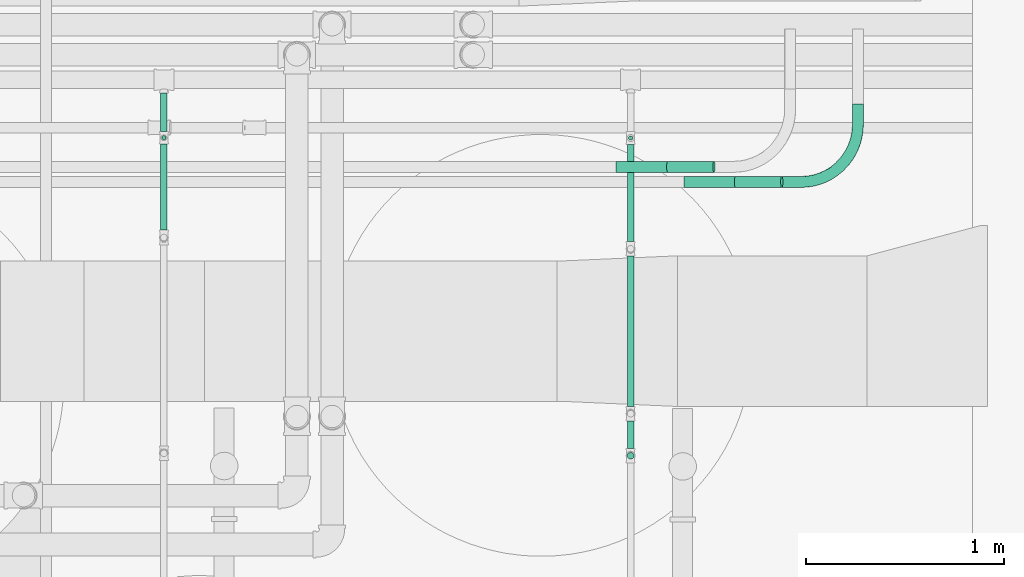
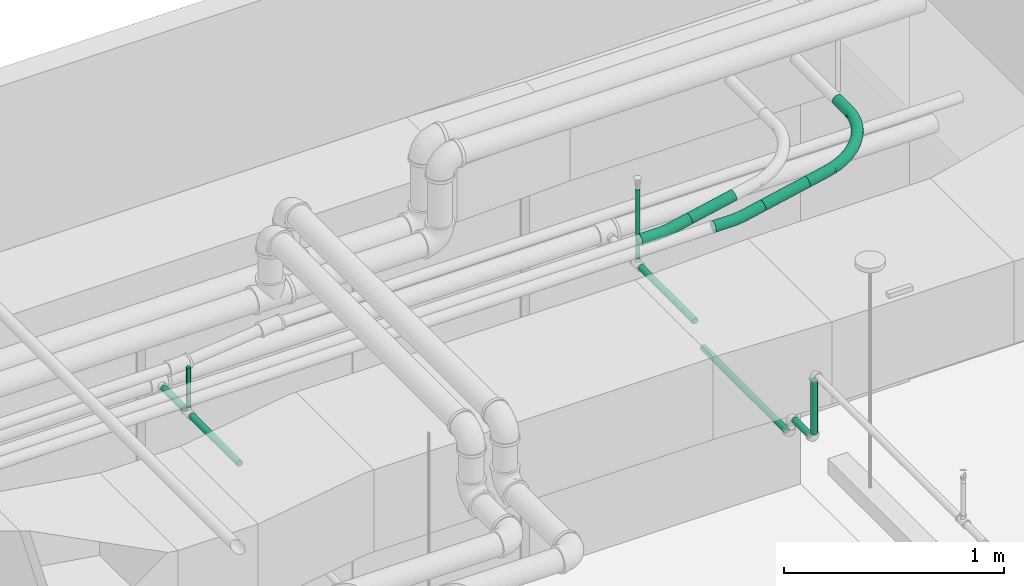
# One storey, part 66 of 108: 8 pipe segments, 3 cable carrier fittings, 2 cable carrier segments.
"""IFC4 building model written with IfcOpenShell, lengths in feet."""

import ifcopenshell
import ifcopenshell.guid

model = None  # the IFC model being written
_history = None  # IfcOwnerHistory: only IFC2X3 demands one
_inside = {}  # id of a spatial element -> (the spatial element, [elements in it])
_under = {}  # id of a project, library or spatial element -> (it, [spatial elements below it])
_declared = {}  # id of a project -> (the project, [libraries it declares])
_typed = {}  # id of a type object -> (the type object, [elements of that type])
_made_of = {}  # id of a material, layer set ... -> (it, [elements and type objects made of it])


def new_model(schema):
    """Start an empty IFC model of exactly this schema.

    Asked for "IFC4X3", IfcOpenShell would pick the latest addendum, in which some entities
    have other attributes; the version numbers below select the first issue.
    IFC2X3 requires an IfcOwnerHistory on every rooted entity: one is made here for all.
    """
    global model, _history
    if schema == "IFC4X3":
        model = ifcopenshell.file(schema_version=(4, 3, 0, 0))
    else:
        model = ifcopenshell.file(schema=schema)
    _inside.clear()
    _under.clear()
    _declared.clear()
    _typed.clear()
    _made_of.clear()
    _history = None
    if model.schema == "IFC2X3":
        org = make("IfcOrganization", Name="unknown")
        user = make(
            "IfcPersonAndOrganization",
            ThePerson=make("IfcPerson", FamilyName="unknown"),
            TheOrganization=org,
        )
        app = make(
            "IfcApplication",
            ApplicationDeveloper=org,
            Version="unknown",
            ApplicationFullName="unknown",
            ApplicationIdentifier="unknown",
        )
        _history = make(
            "IfcOwnerHistory",
            OwningUser=user,
            OwningApplication=app,
            ChangeAction="ADDED",
            CreationDate=0,
        )
    return model


def make(cls, **values):
    """One entity of the class cls with the attributes given. An attribute that is None is left unset."""
    return model.create_entity(
        cls, **{name: value for name, value in values.items() if value is not None}
    )


def entity(cls, *values):
    """Any entity or typed value of the class cls, its attributes in the order of the schema. None: left unset."""
    e = model.create_entity(cls)
    for i, value in enumerate(values):
        if value is not None:
            e[i] = value
    return e


def rooted(cls, **values):
    """An entity with a GlobalId (a new one), such as an element, a storey or a relation."""
    return make(cls, GlobalId=ifcopenshell.guid.new(), OwnerHistory=_history, **values)


def si_unit(unit_type, name, prefix=None):
    """IfcSIUnit, for example si_unit("LENGTHUNIT", "METRE", prefix="MILLI")."""
    return make("IfcSIUnit", UnitType=unit_type, Prefix=prefix, Name=name)


def converted_unit(unit_type, name, factor, base, dimensions=None, offset=None):
    """IfcConversionBasedUnit, such as the inch: factor (a typed value) times the base unit."""
    return make(
        "IfcConversionBasedUnit"
        if offset is None
        else "IfcConversionBasedUnitWithOffset",
        ConversionOffset=offset,
        Dimensions=None
        if dimensions is None
        else entity("IfcDimensionalExponents", *dimensions),
        UnitType=unit_type,
        Name=name,
        ConversionFactor=make(
            "IfcMeasureWithUnit", ValueComponent=factor, UnitComponent=base
        ),
    )


def derived_unit(unit_type, elements):
    """IfcDerivedUnit: a product of units, each with its exponent."""
    return make(
        "IfcDerivedUnit",
        Elements=[
            make("IfcDerivedUnitElement", Unit=unit, Exponent=power)
            for unit, power in elements
        ],
        UnitType=unit_type,
    )


def assignment(units):
    """IfcUnitAssignment: the units of a project."""
    return None if units is None else make("IfcUnitAssignment", Units=units)


def point(xyz):
    """IfcCartesianPoint."""
    return None if xyz is None else make("IfcCartesianPoint", Coordinates=xyz)


def direction(xyz):
    """IfcDirection."""
    return None if xyz is None else make("IfcDirection", DirectionRatios=xyz)


def frame(location, z_axis=None, x_axis=None):
    """IfcAxis2Placement3D, a coordinate frame: its origin and axes. An axis left out is left unset."""
    return make(
        "IfcAxis2Placement3D",
        Location=point(location),
        Axis=direction(z_axis),
        RefDirection=direction(x_axis),
    )


def frame_2d(location, x_axis=None):
    """IfcAxis2Placement2D, a coordinate frame in the plane: its origin and x axis."""
    return make(
        "IfcAxis2Placement2D", Location=point(location), RefDirection=direction(x_axis)
    )


def origin():
    """The frame at (0, 0, 0) with its axes left unset."""
    return frame((0.0, 0.0, 0.0))


def origin_2d_with_axis():
    """The frame at (0, 0) in the plane with the x axis (1, 0) written out."""
    return frame_2d((0.0, 0.0), x_axis=(1.0, 0.0))


def place(relative_to, where):
    """IfcLocalPlacement: puts the frame where relative to a parent placement (None: the world)."""
    return make(
        "IfcLocalPlacement", PlacementRelTo=relative_to, RelativePlacement=where
    )


def context(
    kind, dimensions, precision=None, world=None, true_north=None, identifier=None
):
    """IfcGeometricRepresentationContext, for example the 3D "Model" context."""
    return make(
        "IfcGeometricRepresentationContext",
        ContextIdentifier=identifier,
        ContextType=kind,
        CoordinateSpaceDimension=dimensions,
        Precision=precision,
        WorldCoordinateSystem=world,
        TrueNorth=true_north,
    )


def subcontext(parent, identifier, kind, view, scale=None):
    """IfcGeometricRepresentationSubContext, for example "Body" below "Model"."""
    return make(
        "IfcGeometricRepresentationSubContext",
        ContextIdentifier=identifier,
        ContextType=kind,
        ParentContext=parent,
        TargetScale=scale,
        TargetView=view,
    )


def project(units=None, contexts=None):
    """IfcProject with its units and contexts."""
    return rooted(
        "IfcProject",
        Name="project",
        RepresentationContexts=contexts,
        UnitsInContext=assignment(units),
    )


def spatial(cls, under=None, at=None, **own):
    """A site, building, storey or space (cls), placed at a placement, below another one or the project."""
    s = rooted(cls, ObjectPlacement=at, **own)
    if under is not None:
        _under.setdefault(under.id(), (under, []))[1].append(s)
    return s


def profile(cls, at=None, kind="AREA", **sizes):
    """A parametric profile (cls). Its sizes go by their IFC names, for example OverallWidth=200.0."""
    return make(cls, ProfileType=kind, Position=at, **sizes)


def circle(**sizes):
    """IfcCircleProfileDef."""
    return profile("IfcCircleProfileDef", **sizes)


def extrude(swept, where, along, depth):
    """IfcExtrudedAreaSolid: the profile swept, set in the frame where, extruded along a direction by depth."""
    return make(
        "IfcExtrudedAreaSolid",
        SweptArea=swept,
        Position=where,
        ExtrudedDirection=direction(along),
        Depth=depth,
    )


def shape(context_of_items, identifier, shape_type, items):
    """IfcShapeRepresentation: the items that make up one representation, for example the "Body"."""
    return make(
        "IfcShapeRepresentation",
        ContextOfItems=context_of_items,
        RepresentationIdentifier=identifier,
        RepresentationType=shape_type,
        Items=items,
    )


def source(mapping_origin, context_of_items, identifier, shape_type, items):
    """IfcRepresentationMap: a shape defined once, which mapped items show again and again."""
    return make(
        "IfcRepresentationMap",
        MappingOrigin=mapping_origin,
        MappedRepresentation=shape(context_of_items, identifier, shape_type, items),
    )


def transform(
    local_origin,
    x_axis=None,
    y_axis=None,
    z_axis=None,
    scale=None,
    scale2=None,
    scale3=None,
    uniform=True,
):
    """IfcCartesianTransformationOperator3D, or its non-uniform kind. x_axis, y_axis, z_axis: its Axis1, 2, 3."""
    if uniform:
        return make(
            "IfcCartesianTransformationOperator3D",
            Axis1=direction(x_axis),
            Axis2=direction(y_axis),
            LocalOrigin=point(local_origin),
            Scale=scale,
            Axis3=direction(z_axis),
        )
    return make(
        "IfcCartesianTransformationOperator3DnonUniform",
        Axis1=direction(x_axis),
        Axis2=direction(y_axis),
        LocalOrigin=point(local_origin),
        Scale=scale,
        Axis3=direction(z_axis),
        Scale2=scale2,
        Scale3=scale3,
    )


def mapped(mapping_source, mapping_target):
    """IfcMappedItem: shows the shape of a source again, moved by a transform."""
    return make(
        "IfcMappedItem", MappingSource=mapping_source, MappingTarget=mapping_target
    )


def made_of(thing, what):
    """Note that an element or type object is made of a material, layer set ...; save() writes the relation."""
    if what is not None:
        _made_of.setdefault(what.id(), (what, []))[1].append(thing)
    return thing


def type_object(cls, material=None, **own):
    """A type object (cls), such as IfcWallType, which elements share."""
    return made_of(rooted(cls, **own), material)


def type_shapes(of_type, sources):
    """Give a type object the sources (RepresentationMaps) that its elements show as mapped items."""
    of_type.RepresentationMaps = sources


def element(
    cls,
    number,
    at=None,
    inside=None,
    cuts=None,
    type_object=None,
    material=None,
    context=None,
    identifier="Body",
    shape_type=None,
    held_by="IfcProductDefinitionShape",
    body=None,
    shapes=None,
    **own,
):
    """One element of the class cls, such as IfcWall. Its Tag is "e" and its number.

    at: its placement. inside: the storey or other place that contains it. cuts: it is an
    opening in that element (IfcRelVoidsElement). A single representation is given by context,
    identifier, shape_type and body (its items); several are given by shapes. held_by: the class
    of the entity that holds the representations. save() writes the other relations.
    """
    e = rooted(cls, Tag="e%d" % number, ObjectPlacement=at, **own)
    if body is not None:
        shapes = [shape(context, identifier, shape_type, body)]
    if shapes is not None:
        e.Representation = make(held_by, Representations=shapes)
    if inside is not None:
        _inside.setdefault(inside.id(), (inside, []))[1].append(e)
    if cuts is not None:
        rooted(
            "IfcRelVoidsElement", RelatingBuildingElement=cuts, RelatedOpeningElement=e
        )
    if type_object is not None:
        _typed.setdefault(type_object.id(), (type_object, []))[1].append(e)
    return made_of(e, material)


def aggregate(whole, parts):
    """IfcRelAggregates: a whole, such as a stair, and the parts it consists of."""
    return rooted("IfcRelAggregates", RelatingObject=whole, RelatedObjects=parts)


def save(model, path):
    """Write the relations noted so far, then the file.

    IfcRelAggregates (storeys below a building ...), IfcRelContainedInSpatialStructure (elements
    in a storey), IfcRelDefinesByType, IfcRelAssociatesMaterial and IfcRelDeclares: one each for
    every whole, place, type object, material and project.
    """
    for whole, parts in _under.values():
        aggregate(whole, parts)
    for where, things in _inside.values():
        rooted(
            "IfcRelContainedInSpatialStructure",
            RelatedElements=things,
            RelatingStructure=where,
        )
    for kind, things in _typed.values():
        rooted("IfcRelDefinesByType", RelatedObjects=things, RelatingType=kind)
    for what, things in _made_of.values():
        rooted("IfcRelAssociatesMaterial", RelatedObjects=things, RelatingMaterial=what)
    for by, libraries in _declared.values():
        rooted("IfcRelDeclares", RelatingContext=by, RelatedDefinitions=libraries)
    model.write(path)


model = new_model("IFC4")

# Units and contexts
model_context = context("Model", 3, precision=0.0001, world=origin(), true_north=direction((6.12303176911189e-17, 1.0)))
body_context = subcontext(model_context, "Body", "Model", "MODEL_VIEW")
ifc_project = project(units=[converted_unit("LENGTHUNIT", "FOOT", entity("IfcRatioMeasure", 0.3048), si_unit("LENGTHUNIT", "METRE"), dimensions=[1, 0, 0, 0, 0, 0, 0]), converted_unit("AREAUNIT", "SQUARE FOOT", entity("IfcRatioMeasure", 0.09290304), si_unit("AREAUNIT", "SQUARE_METRE"), dimensions=[2, 0, 0, 0, 0, 0, 0]), converted_unit("VOLUMEUNIT", "CUBIC FOOT", entity("IfcRatioMeasure", 0.028316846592), si_unit("VOLUMEUNIT", "CUBIC_METRE"), dimensions=[3, 0, 0, 0, 0, 0, 0]), converted_unit("PLANEANGLEUNIT", "DEGREE", entity("IfcRatioMeasure", 0.0174532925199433), si_unit("PLANEANGLEUNIT", "RADIAN"), dimensions=[0, 0, 0, 0, 0, 0, 0]), si_unit("MASSUNIT", "GRAM", prefix="KILO"), derived_unit("MASSDENSITYUNIT", [(si_unit("MASSUNIT", "GRAM", prefix="KILO"), 1), (si_unit("LENGTHUNIT", "METRE"), -3)]), si_unit("TIMEUNIT", "SECOND"), si_unit("FREQUENCYUNIT", "HERTZ"), si_unit("THERMODYNAMICTEMPERATUREUNIT", "DEGREE_CELSIUS"), derived_unit("THERMALTRANSMITTANCEUNIT", [(si_unit("MASSUNIT", "GRAM", prefix="KILO"), 1), (si_unit("THERMODYNAMICTEMPERATUREUNIT", "KELVIN"), -1), (si_unit("TIMEUNIT", "SECOND"), -3)]), derived_unit("VOLUMETRICFLOWRATEUNIT", [(si_unit("LENGTHUNIT", "METRE"), 3), (si_unit("TIMEUNIT", "SECOND"), -1)]), si_unit("ELECTRICCURRENTUNIT", "AMPERE"), si_unit("ELECTRICVOLTAGEUNIT", "VOLT"), si_unit("POWERUNIT", "WATT"), si_unit("FORCEUNIT", "NEWTON"), si_unit("ILLUMINANCEUNIT", "LUX"), si_unit("LUMINOUSFLUXUNIT", "LUMEN"), si_unit("LUMINOUSINTENSITYUNIT", "CANDELA"), derived_unit("USERDEFINED", [(si_unit("MASSUNIT", "GRAM", prefix="KILO"), -1), (si_unit("LENGTHUNIT", "METRE"), -2), (si_unit("TIMEUNIT", "SECOND"), 3), (si_unit("LUMINOUSFLUXUNIT", "LUMEN"), 1)]), derived_unit("LINEARVELOCITYUNIT", [(si_unit("LENGTHUNIT", "METRE"), 1), (si_unit("TIMEUNIT", "SECOND"), -1)]), si_unit("PRESSUREUNIT", "PASCAL"), derived_unit("USERDEFINED", [(si_unit("LENGTHUNIT", "METRE"), -2), (si_unit("MASSUNIT", "GRAM", prefix="KILO"), 1), (si_unit("TIMEUNIT", "SECOND"), -2)])], contexts=[model_context])

# Site, building, storey
site_placement = place(None, origin())
site = spatial("IfcSite", under=ifc_project, at=site_placement, Name="Default", CompositionType="ELEMENT")
building_placement = place(site_placement, origin())
building = spatial("IfcBuilding", under=site, at=building_placement, CompositionType="ELEMENT")
storey_placement = place(building_placement, frame((0.0, 0.0, 168.0)))
storey = spatial("IfcBuildingStorey", under=building, at=storey_placement, Name="Level 15", CompositionType="ELEMENT", Elevation=168.0)

# Pipe segments
pipe_segment_type = type_object("IfcPipeSegmentType", Name="Pipe Types:Fire Prot Sched 10 Main", PredefinedType="NOTDEFINED")
pipe_segment_1_placement = place(storey_placement, frame((-33.5476661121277, 10.2125607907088, 9.116469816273)))
element("IfcPipeSegment", 1, at=pipe_segment_1_placement, inside=storey, type_object=pipe_segment_type, Name="Pipe Types:Fire Prot Sched 10 Main", ObjectType="Pipe Types:Fire Prot Sched 10 Main", PredefinedType="NOTDEFINED", context=body_context, shape_type="SweptSolid", body=[
    extrude(circle(Radius=0.035, at=origin_2d_with_axis()), frame((0.0402338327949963, 0.0402338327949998, 0.0)), (0.0, 0.0, 1.0), 0.716863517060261),
])
pipe_segment_2_placement = place(storey_placement, frame((-33.5674577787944, 8.7184668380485, 8.93997450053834)))
element("IfcPipeSegment", 2, at=pipe_segment_2_placement, inside=storey, type_object=pipe_segment_type, Name="Pipe Types:Fire Prot Sched 10 Main", ObjectType="Pipe Types:Fire Prot Sched 10 Main", PredefinedType="NOTDEFINED", context=body_context, shape_type="SweptSolid", body=[
    extrude(circle(Radius=0.0547916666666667, at=origin_2d_with_axis()), frame((0.0600254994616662, 0.0, 0.0600254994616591), z_axis=(0.0, 1.0, 0.0), x_axis=(-1.0, 0.0, 0.0)), (0.0, 0.0, 1.0), 1.42934090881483),
])
pipe_segment_3_placement = place(storey_placement, frame((-33.5674577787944, 10.3577815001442, 8.93997450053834)))
element("IfcPipeSegment", 3, at=pipe_segment_3_placement, inside=storey, type_object=pipe_segment_type, Name="Pipe Types:Fire Prot Sched 10 Main", ObjectType="Pipe Types:Fire Prot Sched 10 Main", PredefinedType="NOTDEFINED", context=body_context, shape_type="SweptSolid", body=[
    extrude(circle(Radius=0.0547916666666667, at=frame_2d((7.105427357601e-15, 0.0), x_axis=(1.0, 0.0))), frame((0.0600254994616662, 0.0, 0.0600254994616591), z_axis=(0.0, 1.0, 0.0), x_axis=(-1.0, 0.0, 0.0)), (0.0, 0.0, 1.0), 0.634734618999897),
])
pipe_segment_4_placement = place(storey_placement, frame((-25.8207476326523, 4.91431748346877, 9.1212109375)))
element("IfcPipeSegment", 4, at=pipe_segment_4_placement, inside=storey, type_object=pipe_segment_type, Name="Pipe Types:Fire Prot Sched 10 Main", ObjectType="Pipe Types:Fire Prot Sched 10 Main", PredefinedType="NOTDEFINED", context=body_context, shape_type="SweptSolid", body=[
    extrude(circle(Radius=0.0547916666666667, at=origin_2d_with_axis()), frame((0.0600254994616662, 0.0600254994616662, 0.0)), (0.0, 0.0, 1.0), 0.96591145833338),
])
pipe_segment_5_placement = place(storey_placement, frame((-25.8207476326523, 5.7934705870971, 8.60664116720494)))
element("IfcPipeSegment", 5, at=pipe_segment_5_placement, inside=storey, type_object=pipe_segment_type, Name="Pipe Types:Fire Prot Sched 10 Main", ObjectType="Pipe Types:Fire Prot Sched 10 Main", PredefinedType="NOTDEFINED", context=body_context, shape_type="SweptSolid", body=[
    extrude(circle(Radius=0.0547916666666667, at=frame_2d((-8.19688726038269e-43, -2.8421709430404e-14), x_axis=(1.0, 0.0))), frame((0.0600254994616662, 0.0, 0.0600254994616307), z_axis=(0.0, 1.0, 0.0), x_axis=(1.0, 0.0, 0.0)), (0.0, 0.0, 1.0), 2.49507437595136),
])
pipe_segment_6_placement = place(storey_placement, frame((-25.8207476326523, 8.53096683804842, 8.93997450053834)))
element("IfcPipeSegment", 6, at=pipe_segment_6_placement, inside=storey, type_object=pipe_segment_type, Name="Pipe Types:Fire Prot Sched 10 Main", ObjectType="Pipe Types:Fire Prot Sched 10 Main", PredefinedType="NOTDEFINED", context=body_context, shape_type="SweptSolid", body=[
    extrude(circle(Radius=0.0547916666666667, at=frame_2d((-1.77635683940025e-14, 0.0), x_axis=(1.0, 0.0))), frame((0.0600254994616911, 0.0, 0.0600254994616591), z_axis=(0.0, 1.0, 0.0), x_axis=(-1.0, 0.0, 0.0)), (0.0, 0.0, 1.0), 1.6116325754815),
])
pipe_segment_7_placement = place(storey_placement, frame((-25.8207476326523, 5.09555392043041, 8.93997450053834)))
element("IfcPipeSegment", 7, at=pipe_segment_7_placement, inside=storey, type_object=pipe_segment_type, Name="Pipe Types:Fire Prot Sched 10 Main", ObjectType="Pipe Types:Fire Prot Sched 10 Main", PredefinedType="NOTDEFINED", context=body_context, shape_type="SweptSolid", body=[
    extrude(circle(Radius=0.0547916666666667, at=frame_2d((0.0, 2.8421709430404e-14), x_axis=(1.0, 0.0))), frame((0.0600254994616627, 0.0, 0.0600254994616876), z_axis=(0.0, 1.0, 0.0), x_axis=(1.0, 0.0, 0.0)), (0.0, 0.0, 1.0), 0.455494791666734),
])
pipe_segment_8_placement = place(storey_placement, frame((-25.8009559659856, 10.2073524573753, 9.11646981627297)))
element("IfcPipeSegment", 8, at=pipe_segment_8_placement, inside=storey, type_object=pipe_segment_type, Name="Pipe Types:Fire Prot Sched 10 Main", ObjectType="Pipe Types:Fire Prot Sched 10 Main", PredefinedType="NOTDEFINED", context=body_context, shape_type="SweptSolid", body=[
    extrude(circle(Radius=0.035, at=origin_2d_with_axis()), frame((0.0402338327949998, 0.0402338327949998, 0.0)), (0.0, 0.0, 1.0), 1.25853018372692),
])

# Cable carrier segments
cable_carrier_segment_type = type_object("IfcCableCarrierSegmentType", Name="Conduit with Fittings:Conduit", PredefinedType="NOTDEFINED")
cable_carrier_segment_1_placement = place(storey_placement, frame((-25.168900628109, 9.67330486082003, 9.8077551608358)))
element("IfcCableCarrierSegment", 9, at=cable_carrier_segment_1_placement, inside=storey, type_object=cable_carrier_segment_type, Name="Conduit with Fittings:Conduit", ObjectType="Conduit with Fittings:Conduit", PredefinedType="NOTDEFINED", context=body_context, shape_type="SweptSolid", body=[
    extrude(circle(Radius=0.0915416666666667, at=origin_2d_with_axis()), frame((0.0242309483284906, 0.0967754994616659, 0.0947826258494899), z_axis=(0.978229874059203, 0.0, 0.20752424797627), x_axis=(0.0, -1.0, 0.0)), (0.0, 0.0, 1.0), 0.784213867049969),
])
cable_carrier_segment_2_placement = place(storey_placement, frame((-24.043900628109, 9.42330486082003, 9.8077551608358)))
element("IfcCableCarrierSegment", 10, at=cable_carrier_segment_2_placement, inside=storey, type_object=cable_carrier_segment_type, Name="Conduit with Fittings:Conduit", ObjectType="Conduit with Fittings:Conduit", PredefinedType="NOTDEFINED", context=body_context, shape_type="SweptSolid", body=[
    extrude(circle(Radius=0.0915416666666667, at=origin_2d_with_axis()), frame((0.0242309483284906, 0.0967754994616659, 0.0947826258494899), z_axis=(0.978229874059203, 0.0, 0.207524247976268), x_axis=(0.0, -1.0, 0.0)), (0.0, 0.0, 1.0), 0.784213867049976),
])

# Cable carrier fittings
cable_carrier_fitting_type_1 = type_object("IfcCableCarrierFittingType", Name="Standard", PredefinedType="NOTDEFINED")
cartesian_point_1 = entity("IfcCartesianPoint", [-1.29166666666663, -0.0915416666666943, 0.0])
vertex_point_1 = entity("IfcVertexPoint", cartesian_point_1)
cartesian_point_2 = entity("IfcCartesianPoint", [-1.29166666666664, 0.091541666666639, 0.0])
vertex_point_2 = entity("IfcVertexPoint", cartesian_point_2)
cartesian_point_3 = entity("IfcCartesianPoint", [-1.29166666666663, 0.0, 0.0])
ifc_direction_1 = entity("IfcDirection", [-1.0, 0.0, 0.0])
ifc_direction_2 = entity("IfcDirection", [0.0, 1.0, 0.0])
edge_curve_1 = entity("IfcEdgeCurve", vertex_point_1, vertex_point_2, entity("IfcTrimmedCurve", entity("IfcCircle", entity("IfcAxis2Placement3D", cartesian_point_3, ifc_direction_1, ifc_direction_2), 0.0915416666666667), [cartesian_point_1], [cartesian_point_2], True, "CARTESIAN"), True)
edge_curve_2 = entity("IfcEdgeCurve", vertex_point_2, vertex_point_1, entity("IfcTrimmedCurve", entity("IfcCircle", entity("IfcAxis2Placement3D", cartesian_point_3, ifc_direction_1, ifc_direction_2), 0.0915416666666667), [cartesian_point_2], [cartesian_point_1], True, "CARTESIAN"), True)
ifc_direction_3 = entity("IfcDirection", [0.0, 0.0, 1.0])
cartesian_point_4 = entity("IfcCartesianPoint", [-0.958333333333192, -0.0915416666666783, 0.0])
vertex_point_3 = entity("IfcVertexPoint", cartesian_point_4)
edge_curve_3 = entity("IfcEdgeCurve", vertex_point_1, vertex_point_3, entity("IfcTrimmedCurve", entity("IfcLine", cartesian_point_1, entity("IfcVector", entity("IfcDirection", [1.0, 0.0, 0.0]), 1.0)), [cartesian_point_1], [cartesian_point_4], True, "CARTESIAN"), True)
cartesian_point_5 = entity("IfcCartesianPoint", [-0.958333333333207, 0.0915416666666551, 0.0])
vertex_point_4 = entity("IfcVertexPoint", cartesian_point_5)
cartesian_point_6 = entity("IfcCartesianPoint", [-0.958333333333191, 0.0, 0.0])
edge_curve_4 = entity("IfcEdgeCurve", vertex_point_3, vertex_point_4, entity("IfcTrimmedCurve", entity("IfcCircle", entity("IfcAxis2Placement3D", cartesian_point_6, ifc_direction_1, ifc_direction_2), 0.0915416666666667), [cartesian_point_4], [cartesian_point_5], True, "CARTESIAN"), True)
edge_curve_5 = entity("IfcEdgeCurve", vertex_point_4, vertex_point_2, entity("IfcTrimmedCurve", entity("IfcLine", cartesian_point_2, entity("IfcVector", ifc_direction_1, 1.0)), [cartesian_point_5], [cartesian_point_2], True, "CARTESIAN"), True)
edge_curve_6 = entity("IfcEdgeCurve", vertex_point_4, vertex_point_3, entity("IfcTrimmedCurve", entity("IfcCircle", entity("IfcAxis2Placement3D", cartesian_point_6, ifc_direction_1, ifc_direction_2), 0.0915416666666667), [cartesian_point_5], [cartesian_point_4], True, "CARTESIAN"), True)
cartesian_point_7 = entity("IfcCartesianPoint", [-0.0915416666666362, 0.958333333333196, 0.0])
vertex_point_5 = entity("IfcVertexPoint", cartesian_point_7)
cartesian_point_8 = entity("IfcCartesianPoint", [-0.958333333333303, 0.958333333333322, 0.0])
ifc_direction_4 = entity("IfcDirection", [0.0, -1.0, 0.0])
edge_curve_7 = entity("IfcEdgeCurve", vertex_point_5, vertex_point_4, entity("IfcTrimmedCurve", entity("IfcCircle", entity("IfcAxis2Placement3D", cartesian_point_8, entity("IfcDirection", [0.0, 0.0, -1.0]), ifc_direction_4), 0.866791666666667), [cartesian_point_7], [cartesian_point_5], True, "CARTESIAN"), True)
cartesian_point_9 = entity("IfcCartesianPoint", [0.0915416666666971, 0.958333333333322, 0.0])
vertex_point_6 = entity("IfcVertexPoint", cartesian_point_9)
edge_curve_8 = entity("IfcEdgeCurve", vertex_point_3, vertex_point_6, entity("IfcTrimmedCurve", entity("IfcCircle", entity("IfcAxis2Placement3D", cartesian_point_8, ifc_direction_3, ifc_direction_4), 1.049875), [cartesian_point_4], [cartesian_point_9], True, "CARTESIAN"), True)
cartesian_point_10 = entity("IfcCartesianPoint", [0.0, 0.958333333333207, 0.0])
edge_curve_9 = entity("IfcEdgeCurve", vertex_point_6, vertex_point_5, entity("IfcTrimmedCurve", entity("IfcCircle", entity("IfcAxis2Placement3D", cartesian_point_10, ifc_direction_4, ifc_direction_1), 0.0915416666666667), [cartesian_point_9], [cartesian_point_7], True, "CARTESIAN"), True)
edge_curve_10 = entity("IfcEdgeCurve", vertex_point_5, vertex_point_6, entity("IfcTrimmedCurve", entity("IfcCircle", entity("IfcAxis2Placement3D", cartesian_point_10, ifc_direction_4, ifc_direction_1), 0.0915416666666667), [cartesian_point_7], [cartesian_point_9], True, "CARTESIAN"), True)
cartesian_point_11 = entity("IfcCartesianPoint", [0.0915416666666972, 1.29166666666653, 0.0])
vertex_point_7 = entity("IfcVertexPoint", cartesian_point_11)
cartesian_point_12 = entity("IfcCartesianPoint", [-0.0915416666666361, 1.29166666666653, 0.0])
vertex_point_8 = entity("IfcVertexPoint", cartesian_point_12)
cartesian_point_13 = entity("IfcCartesianPoint", [0.0, 1.29166666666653, 0.0])
edge_curve_11 = entity("IfcEdgeCurve", vertex_point_7, vertex_point_8, entity("IfcTrimmedCurve", entity("IfcCircle", entity("IfcAxis2Placement3D", cartesian_point_13, ifc_direction_2, ifc_direction_1), 0.0915416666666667), [cartesian_point_11], [cartesian_point_12], True, "CARTESIAN"), True)
edge_curve_12 = entity("IfcEdgeCurve", vertex_point_8, vertex_point_7, entity("IfcTrimmedCurve", entity("IfcCircle", entity("IfcAxis2Placement3D", cartesian_point_13, ifc_direction_2, ifc_direction_1), 0.0915416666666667), [cartesian_point_12], [cartesian_point_11], True, "CARTESIAN"), True)
edge_curve_13 = entity("IfcEdgeCurve", vertex_point_6, vertex_point_7, entity("IfcTrimmedCurve", entity("IfcLine", cartesian_point_9, entity("IfcVector", ifc_direction_2, 1.0)), [cartesian_point_9], [cartesian_point_11], True, "CARTESIAN"), True)
edge_curve_14 = entity("IfcEdgeCurve", vertex_point_8, vertex_point_5, entity("IfcTrimmedCurve", entity("IfcLine", cartesian_point_7, entity("IfcVector", ifc_direction_4, 1.0)), [cartesian_point_12], [cartesian_point_7], True, "CARTESIAN"), True)
shared_shape_1 = source(origin(), body_context, "Body", "AdvancedBrep", [
    entity("IfcAdvancedBrep", entity("IfcClosedShell", [entity("IfcAdvancedFace", [entity("IfcFaceOuterBound", entity("IfcEdgeLoop", [entity("IfcOrientedEdge", None, None, edge_curve_1, True), entity("IfcOrientedEdge", None, None, edge_curve_2, True)]), True)], entity("IfcPlane", entity("IfcAxis2Placement3D", cartesian_point_3, ifc_direction_1, ifc_direction_3)), True), entity("IfcAdvancedFace", [entity("IfcFaceOuterBound", entity("IfcEdgeLoop", [entity("IfcOrientedEdge", None, None, edge_curve_1, False), entity("IfcOrientedEdge", None, None, edge_curve_3, True), entity("IfcOrientedEdge", None, None, edge_curve_4, True), entity("IfcOrientedEdge", None, None, edge_curve_5, True)]), True)], entity("IfcCylindricalSurface", entity("IfcAxis2Placement3D", cartesian_point_3, ifc_direction_1, ifc_direction_2), 0.0915416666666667), True), entity("IfcAdvancedFace", [entity("IfcFaceOuterBound", entity("IfcEdgeLoop", [entity("IfcOrientedEdge", None, None, edge_curve_2, False), entity("IfcOrientedEdge", None, None, edge_curve_5, False), entity("IfcOrientedEdge", None, None, edge_curve_6, True), entity("IfcOrientedEdge", None, None, edge_curve_3, False)]), True)], entity("IfcCylindricalSurface", entity("IfcAxis2Placement3D", cartesian_point_3, ifc_direction_1, ifc_direction_2), 0.0915416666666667), True), entity("IfcAdvancedFace", [entity("IfcFaceOuterBound", entity("IfcEdgeLoop", [entity("IfcOrientedEdge", None, None, edge_curve_7, True), entity("IfcOrientedEdge", None, None, edge_curve_4, False), entity("IfcOrientedEdge", None, None, edge_curve_8, True), entity("IfcOrientedEdge", None, None, edge_curve_9, True)]), True)], entity("IfcSurfaceOfRevolution", entity("IfcArbitraryOpenProfileDef", "CURVE", None, entity("IfcTrimmedCurve", entity("IfcTrimmedCurve", entity("IfcCircle", entity("IfcAxis2Placement3D", cartesian_point_10, ifc_direction_4, ifc_direction_1), 0.0915416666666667), [cartesian_point_9], [cartesian_point_7], True, "CARTESIAN"), [cartesian_point_9], [cartesian_point_7], True, "CARTESIAN")), None, entity("IfcAxis1Placement", cartesian_point_8, ifc_direction_3)), True), entity("IfcAdvancedFace", [entity("IfcFaceOuterBound", entity("IfcEdgeLoop", [entity("IfcOrientedEdge", None, None, edge_curve_8, False), entity("IfcOrientedEdge", None, None, edge_curve_6, False), entity("IfcOrientedEdge", None, None, edge_curve_7, False), entity("IfcOrientedEdge", None, None, edge_curve_10, True)]), True)], entity("IfcSurfaceOfRevolution", entity("IfcArbitraryOpenProfileDef", "CURVE", None, entity("IfcTrimmedCurve", entity("IfcTrimmedCurve", entity("IfcCircle", entity("IfcAxis2Placement3D", cartesian_point_10, ifc_direction_4, ifc_direction_1), 0.0915416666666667), [cartesian_point_7], [cartesian_point_9], True, "CARTESIAN"), [cartesian_point_7], [cartesian_point_9], True, "CARTESIAN")), None, entity("IfcAxis1Placement", cartesian_point_8, ifc_direction_3)), True), entity("IfcAdvancedFace", [entity("IfcFaceOuterBound", entity("IfcEdgeLoop", [entity("IfcOrientedEdge", None, None, edge_curve_11, True), entity("IfcOrientedEdge", None, None, edge_curve_12, True)]), True)], entity("IfcPlane", entity("IfcAxis2Placement3D", cartesian_point_13, ifc_direction_2, ifc_direction_3)), True), entity("IfcAdvancedFace", [entity("IfcFaceOuterBound", entity("IfcEdgeLoop", [entity("IfcOrientedEdge", None, None, edge_curve_9, False), entity("IfcOrientedEdge", None, None, edge_curve_13, True), entity("IfcOrientedEdge", None, None, edge_curve_12, False), entity("IfcOrientedEdge", None, None, edge_curve_14, True)]), True)], entity("IfcCylindricalSurface", entity("IfcAxis2Placement3D", cartesian_point_10, ifc_direction_4, ifc_direction_1), 0.0915416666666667), True), entity("IfcAdvancedFace", [entity("IfcFaceOuterBound", entity("IfcEdgeLoop", [entity("IfcOrientedEdge", None, None, edge_curve_10, False), entity("IfcOrientedEdge", None, None, edge_curve_14, False), entity("IfcOrientedEdge", None, None, edge_curve_11, False), entity("IfcOrientedEdge", None, None, edge_curve_13, False)]), True)], entity("IfcCylindricalSurface", entity("IfcAxis2Placement3D", cartesian_point_10, ifc_direction_4, ifc_direction_1), 0.0915416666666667), True)])),
])
type_shapes(cable_carrier_fitting_type_1, [shared_shape_1])
cable_carrier_fitting_placement = place(storey_placement, frame((-21.988981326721, 9.52008036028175, 10.3333333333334), z_axis=(-0.207524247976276, 0.0, 0.978229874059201), x_axis=(0.978229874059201, 0.0, 0.207524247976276)))
element("IfcCableCarrierFitting", 11, at=cable_carrier_fitting_placement, inside=storey, type_object=cable_carrier_fitting_type_1, Name="Conduit Elbow - Steel:Standard", ObjectType="Conduit Elbow - Steel:Standard", PredefinedType="NOTDEFINED", context=body_context, shape_type="MappedRepresentation", body=[
    mapped(shared_shape_1, transform((0.0, 0.0, 0.0), scale=1.0)),
])
cable_carrier_fitting_type_2 = type_object("IfcCableCarrierFittingType", Name="Standard", PredefinedType="NOTDEFINED")
cartesian_point_14 = entity("IfcCartesianPoint", [-0.433866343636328, -0.0915416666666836, 0.0])
vertex_point_9 = entity("IfcVertexPoint", cartesian_point_14)
cartesian_point_15 = entity("IfcCartesianPoint", [-0.433866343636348, 0.0915416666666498, 0.0])
vertex_point_10 = entity("IfcVertexPoint", cartesian_point_15)
cartesian_point_16 = entity("IfcCartesianPoint", [-0.433866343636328, 0.0, 0.0])
ifc_direction_5 = entity("IfcDirection", [-1.0, 0.0, 0.0])
ifc_direction_6 = entity("IfcDirection", [0.0, 1.0, 0.0])
edge_curve_15 = entity("IfcEdgeCurve", vertex_point_9, vertex_point_10, entity("IfcTrimmedCurve", entity("IfcCircle", entity("IfcAxis2Placement3D", cartesian_point_16, ifc_direction_5, ifc_direction_6), 0.0915416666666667), [cartesian_point_14], [cartesian_point_15], True, "CARTESIAN"), True)
edge_curve_16 = entity("IfcEdgeCurve", vertex_point_10, vertex_point_9, entity("IfcTrimmedCurve", entity("IfcCircle", entity("IfcAxis2Placement3D", cartesian_point_16, ifc_direction_5, ifc_direction_6), 0.0915416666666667), [cartesian_point_15], [cartesian_point_14], True, "CARTESIAN"), True)
ifc_direction_7 = entity("IfcDirection", [0.0, 0.0, 1.0])
cartesian_point_17 = entity("IfcCartesianPoint", [-0.100533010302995, -0.0915416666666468, 0.0])
vertex_point_11 = entity("IfcVertexPoint", cartesian_point_17)
edge_curve_17 = entity("IfcEdgeCurve", vertex_point_9, vertex_point_11, entity("IfcTrimmedCurve", entity("IfcLine", cartesian_point_14, entity("IfcVector", entity("IfcDirection", [1.0, 0.0, 0.0]), 1.0)), [cartesian_point_14], [cartesian_point_17], True, "CARTESIAN"), True)
cartesian_point_18 = entity("IfcCartesianPoint", [-0.100533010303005, 0.0915416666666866, 0.0])
vertex_point_12 = entity("IfcVertexPoint", cartesian_point_18)
cartesian_point_19 = entity("IfcCartesianPoint", [-0.100533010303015, 0.0, 0.0])
edge_curve_18 = entity("IfcEdgeCurve", vertex_point_11, vertex_point_12, entity("IfcTrimmedCurve", entity("IfcCircle", entity("IfcAxis2Placement3D", cartesian_point_19, ifc_direction_5, ifc_direction_6), 0.0915416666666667), [cartesian_point_17], [cartesian_point_18], True, "CARTESIAN"), True)
edge_curve_19 = entity("IfcEdgeCurve", vertex_point_12, vertex_point_10, entity("IfcTrimmedCurve", entity("IfcLine", cartesian_point_15, entity("IfcVector", ifc_direction_5, 1.0)), [cartesian_point_18], [cartesian_point_15], True, "CARTESIAN"), True)
edge_curve_20 = entity("IfcEdgeCurve", vertex_point_12, vertex_point_11, entity("IfcTrimmedCurve", entity("IfcCircle", entity("IfcAxis2Placement3D", cartesian_point_19, ifc_direction_5, ifc_direction_6), 0.0915416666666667), [cartesian_point_18], [cartesian_point_17], True, "CARTESIAN"), True)
cartesian_point_20 = entity("IfcCartesianPoint", [0.0793472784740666, 0.110411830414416, 0.0])
vertex_point_13 = entity("IfcVertexPoint", cartesian_point_20)
cartesian_point_21 = entity("IfcCartesianPoint", [-0.100533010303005, 0.958333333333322, 0.0])
ifc_direction_8 = entity("IfcDirection", [0.0, -1.0, 0.0])
edge_curve_21 = entity("IfcEdgeCurve", vertex_point_13, vertex_point_12, entity("IfcTrimmedCurve", entity("IfcCircle", entity("IfcAxis2Placement3D", cartesian_point_21, entity("IfcDirection", [0.0, 0.0, -1.0]), ifc_direction_8), 0.866791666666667), [cartesian_point_20], [cartesian_point_18], True, "CARTESIAN"), True)
cartesian_point_22 = entity("IfcCartesianPoint", [0.117341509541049, -0.0686857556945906, 0.0])
vertex_point_14 = entity("IfcVertexPoint", cartesian_point_22)
edge_curve_22 = entity("IfcEdgeCurve", vertex_point_11, vertex_point_14, entity("IfcTrimmedCurve", entity("IfcCircle", entity("IfcAxis2Placement3D", cartesian_point_21, ifc_direction_7, ifc_direction_8), 1.049875), [cartesian_point_17], [cartesian_point_22], True, "CARTESIAN"), True)
cartesian_point_23 = entity("IfcCartesianPoint", [0.0983443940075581, 0.020863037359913, 0.0])
edge_curve_23 = entity("IfcEdgeCurve", vertex_point_14, vertex_point_13, entity("IfcTrimmedCurve", entity("IfcCircle", entity("IfcAxis2Placement3D", cartesian_point_23, entity("IfcDirection", [-0.978229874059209, -0.207524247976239, 0.0]), entity("IfcDirection", [-0.207524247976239, 0.978229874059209, 0.0])), 0.0915416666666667), [cartesian_point_22], [cartesian_point_20], True, "CARTESIAN"), True)
cartesian_point_24 = entity("IfcCartesianPoint", [0.857800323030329, 0.958333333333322, 0.0])
cartesian_point_25 = entity("IfcCartesianPoint", [0.949341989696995, 0.958333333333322, 0.0])
cartesian_point_26 = entity("IfcCartesianPoint", [0.766258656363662, 0.958333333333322, 0.0])
edge_curve_24 = entity("IfcEdgeCurve", vertex_point_13, vertex_point_14, entity("IfcTrimmedCurve", entity("IfcCircle", entity("IfcAxis2Placement3D", cartesian_point_23, entity("IfcDirection", [-0.978229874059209, -0.20752424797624, 0.0]), entity("IfcDirection", [-0.20752424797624, 0.978229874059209, 0.0])), 0.0915416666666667), [cartesian_point_20], [cartesian_point_22], True, "CARTESIAN"), True)
cartesian_point_27 = entity("IfcCartesianPoint", [0.443418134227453, 0.000488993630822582, 0.0])
vertex_point_15 = entity("IfcVertexPoint", cartesian_point_27)
cartesian_point_28 = entity("IfcCartesianPoint", [0.40542390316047, 0.17958657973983, 0.0])
vertex_point_16 = entity("IfcVertexPoint", cartesian_point_28)
cartesian_point_29 = entity("IfcCartesianPoint", [0.424421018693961, 0.0900377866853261, 0.0])
edge_curve_25 = entity("IfcEdgeCurve", vertex_point_15, vertex_point_16, entity("IfcTrimmedCurve", entity("IfcCircle", entity("IfcAxis2Placement3D", cartesian_point_29, entity("IfcDirection", [0.978229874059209, 0.20752424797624, 0.0]), entity("IfcDirection", [-0.20752424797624, 0.978229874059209, 0.0])), 0.0915416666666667), [cartesian_point_27], [cartesian_point_28], True, "CARTESIAN"), True)
edge_curve_26 = entity("IfcEdgeCurve", vertex_point_16, vertex_point_15, entity("IfcTrimmedCurve", entity("IfcCircle", entity("IfcAxis2Placement3D", cartesian_point_29, entity("IfcDirection", [0.978229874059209, 0.20752424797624, 0.0]), entity("IfcDirection", [-0.20752424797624, 0.978229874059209, 0.0])), 0.0915416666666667), [cartesian_point_28], [cartesian_point_27], True, "CARTESIAN"), True)
edge_curve_27 = entity("IfcEdgeCurve", vertex_point_14, vertex_point_15, entity("IfcTrimmedCurve", entity("IfcLine", cartesian_point_22, entity("IfcVector", entity("IfcDirection", [0.978229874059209, 0.20752424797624, 0.0]), 1.0)), [cartesian_point_22], [cartesian_point_27], True, "CARTESIAN"), True)
edge_curve_28 = entity("IfcEdgeCurve", vertex_point_16, vertex_point_13, entity("IfcTrimmedCurve", entity("IfcLine", cartesian_point_20, entity("IfcVector", entity("IfcDirection", [-0.978229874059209, -0.207524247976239, 0.0]), 1.0)), [cartesian_point_28], [cartesian_point_20], True, "CARTESIAN"), True)
shared_shape_2 = source(origin(), body_context, "Body", "AdvancedBrep", [
    entity("IfcAdvancedBrep", entity("IfcClosedShell", [entity("IfcAdvancedFace", [entity("IfcFaceOuterBound", entity("IfcEdgeLoop", [entity("IfcOrientedEdge", None, None, edge_curve_15, True), entity("IfcOrientedEdge", None, None, edge_curve_16, True)]), True)], entity("IfcPlane", entity("IfcAxis2Placement3D", cartesian_point_16, ifc_direction_5, ifc_direction_7)), True), entity("IfcAdvancedFace", [entity("IfcFaceOuterBound", entity("IfcEdgeLoop", [entity("IfcOrientedEdge", None, None, edge_curve_15, False), entity("IfcOrientedEdge", None, None, edge_curve_17, True), entity("IfcOrientedEdge", None, None, edge_curve_18, True), entity("IfcOrientedEdge", None, None, edge_curve_19, True)]), True)], entity("IfcCylindricalSurface", entity("IfcAxis2Placement3D", cartesian_point_16, ifc_direction_5, ifc_direction_6), 0.0915416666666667), True), entity("IfcAdvancedFace", [entity("IfcFaceOuterBound", entity("IfcEdgeLoop", [entity("IfcOrientedEdge", None, None, edge_curve_16, False), entity("IfcOrientedEdge", None, None, edge_curve_19, False), entity("IfcOrientedEdge", None, None, edge_curve_20, True), entity("IfcOrientedEdge", None, None, edge_curve_17, False)]), True)], entity("IfcCylindricalSurface", entity("IfcAxis2Placement3D", cartesian_point_16, ifc_direction_5, ifc_direction_6), 0.0915416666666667), True), entity("IfcAdvancedFace", [entity("IfcFaceOuterBound", entity("IfcEdgeLoop", [entity("IfcOrientedEdge", None, None, edge_curve_21, True), entity("IfcOrientedEdge", None, None, edge_curve_18, False), entity("IfcOrientedEdge", None, None, edge_curve_22, True), entity("IfcOrientedEdge", None, None, edge_curve_23, True)]), True)], entity("IfcSurfaceOfRevolution", entity("IfcArbitraryOpenProfileDef", "CURVE", None, entity("IfcTrimmedCurve", entity("IfcTrimmedCurve", entity("IfcCircle", entity("IfcAxis2Placement3D", cartesian_point_24, ifc_direction_8, ifc_direction_5), 0.0915416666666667), [cartesian_point_25], [cartesian_point_26], True, "CARTESIAN"), [cartesian_point_25], [cartesian_point_26], True, "CARTESIAN")), None, entity("IfcAxis1Placement", cartesian_point_21, ifc_direction_7)), True), entity("IfcAdvancedFace", [entity("IfcFaceOuterBound", entity("IfcEdgeLoop", [entity("IfcOrientedEdge", None, None, edge_curve_22, False), entity("IfcOrientedEdge", None, None, edge_curve_20, False), entity("IfcOrientedEdge", None, None, edge_curve_21, False), entity("IfcOrientedEdge", None, None, edge_curve_24, True)]), True)], entity("IfcSurfaceOfRevolution", entity("IfcArbitraryOpenProfileDef", "CURVE", None, entity("IfcTrimmedCurve", entity("IfcTrimmedCurve", entity("IfcCircle", entity("IfcAxis2Placement3D", cartesian_point_24, ifc_direction_8, ifc_direction_5), 0.0915416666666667), [cartesian_point_26], [cartesian_point_25], True, "CARTESIAN"), [cartesian_point_26], [cartesian_point_25], True, "CARTESIAN")), None, entity("IfcAxis1Placement", cartesian_point_21, ifc_direction_7)), True), entity("IfcAdvancedFace", [entity("IfcFaceOuterBound", entity("IfcEdgeLoop", [entity("IfcOrientedEdge", None, None, edge_curve_25, True), entity("IfcOrientedEdge", None, None, edge_curve_26, True)]), True)], entity("IfcPlane", entity("IfcAxis2Placement3D", cartesian_point_29, entity("IfcDirection", [0.978229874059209, 0.20752424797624, 0.0]), ifc_direction_7)), True), entity("IfcAdvancedFace", [entity("IfcFaceOuterBound", entity("IfcEdgeLoop", [entity("IfcOrientedEdge", None, None, edge_curve_23, False), entity("IfcOrientedEdge", None, None, edge_curve_27, True), entity("IfcOrientedEdge", None, None, edge_curve_26, False), entity("IfcOrientedEdge", None, None, edge_curve_28, True)]), True)], entity("IfcCylindricalSurface", entity("IfcAxis2Placement3D", cartesian_point_23, entity("IfcDirection", [-0.978229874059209, -0.20752424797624, 0.0]), entity("IfcDirection", [-0.20752424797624, 0.978229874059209, 0.0])), 0.0915416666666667), True), entity("IfcAdvancedFace", [entity("IfcFaceOuterBound", entity("IfcEdgeLoop", [entity("IfcOrientedEdge", None, None, edge_curve_24, False), entity("IfcOrientedEdge", None, None, edge_curve_28, False), entity("IfcOrientedEdge", None, None, edge_curve_25, False), entity("IfcOrientedEdge", None, None, edge_curve_27, False)]), True)], entity("IfcCylindricalSurface", entity("IfcAxis2Placement3D", cartesian_point_23, entity("IfcDirection", [-0.978229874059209, -0.20752424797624, 0.0]), entity("IfcDirection", [-0.20752424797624, 0.978229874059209, 0.0])), 0.0915416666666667), True)])),
])
type_shapes(cable_carrier_fitting_type_2, [shared_shape_2])
for number, where, z_axis, x_axis, name in (
    (12, (-25.5690906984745, 9.77008036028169, 9.8125), (0.0, -1.0, 0.0), (1.0, 0.0, 0.0), "Conduit Elbow - Steel:Standard"),
    (13, (-24.4440906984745, 9.52008036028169, 9.8125), (0.0, -1.0, 0.0), (1.0, 0.0, 0.0), "Conduit Elbow - Steel:Standard"),
):
    element("IfcCableCarrierFitting", number, at=place(storey_placement, frame(where, z_axis=z_axis, x_axis=x_axis)), inside=storey, type_object=cable_carrier_fitting_type_2, Name=name, ObjectType="Conduit Elbow - Steel:Standard", PredefinedType="NOTDEFINED", context=body_context, shape_type="MappedRepresentation", body=[
        mapped(shared_shape_2, transform((0.0, 0.0, 0.0), scale=1.0)),
    ])

save(model, "model.ifc")
